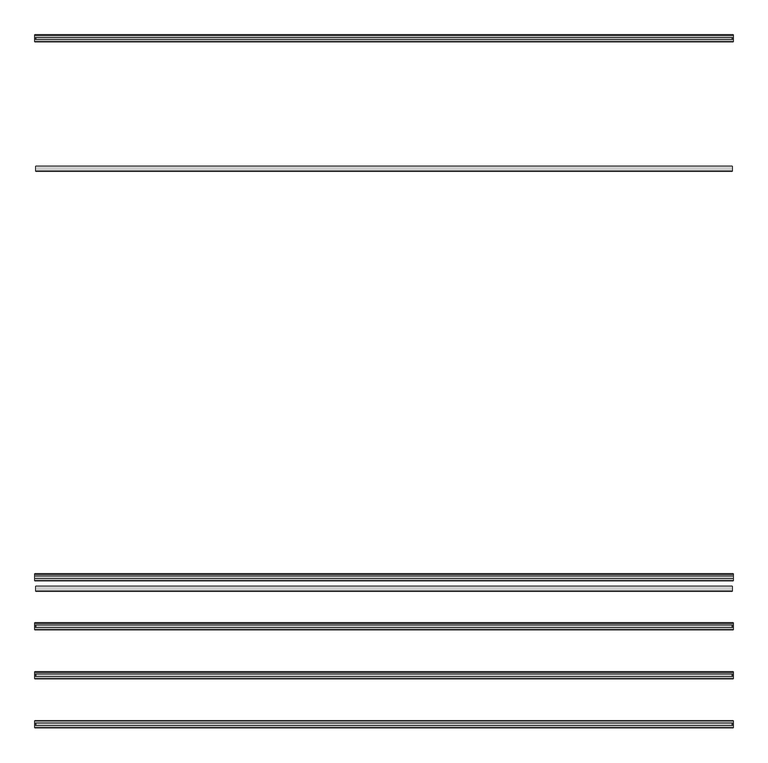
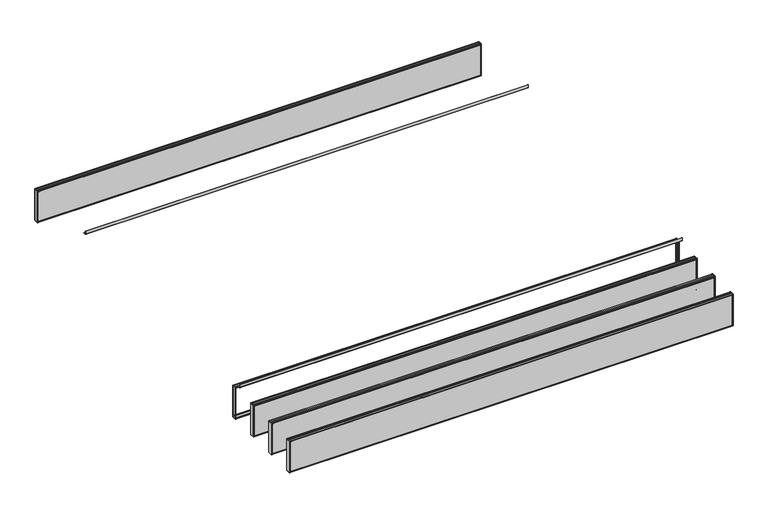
"""IFC4 building model written with IfcOpenShell, lengths in millimetres: proxy geometry, durlum_POLYLAM : durlum_POLYLAM 40 RV-L6."""

from ifc_helpers import new_model, si_unit, point, frame, frame_2d, origin, place, context, project, spatial, polyline, circle_curve, trimmed, segment, composite_curve, outline, extrude, source, transform, mapped, element, save
from ifc_brep_helpers import plane_surface, cylinder_surface, advanced_brep


def generic_models_c2da57ca(model_context):
    return source(origin(), model_context, "Body", "SolidModel", [
        advanced_brep(
        [(1995.0, -1102.0, 2016.9), (1995.0, -1112.0, 2016.9), (1995.0, -1112.0, 2015.9), (1995.0, -1101.0, 2015.9), (1995.0, -1101.0, 1717.9), (1995.0, -1139.0, 1717.9), (1995.0, -1139.0, 2015.8155735), (1995.0, -1128.0, 2015.8155735), (1995.0, -1128.0, 2016.9), (1995.0, -1138.0, 2016.9), (1995.0, -1140.0, 2014.9), (1995.0, -1140.0, 1718.9), (1995.0, -1138.0, 1716.9), (1995.0, -1102.0, 1716.9), (1995.0, -1100.0, 1718.9), (1995.0, -1100.0, 2014.9), (-1995.0, -1102.0, 2016.9), (-1995.0, -1100.0, 2014.9), (-1995.0, -1100.0, 1718.9), (-1995.0, -1102.0, 1716.9), (-1995.0, -1138.0, 1716.9), (-1995.0, -1140.0, 1718.9), (-1995.0, -1140.0, 2014.9), (-1995.0, -1138.0, 2016.9), (-1995.0, -1128.0, 2016.9), (-1995.0, -1128.0, 2015.8155735), (-1995.0, -1139.0, 2015.8155735), (-1995.0, -1139.0, 1717.9), (-1995.0, -1101.0, 1717.9), (-1995.0, -1101.0, 2015.9), (-1995.0, -1112.0, 2015.9), (-1995.0, -1112.0, 2016.9), (-1986.5, -1101.0, 2008.4), (1986.5, -1101.0, 2008.4), (1986.5, -1101.0, 1725.4), (-1986.5, -1101.0, 1725.4), (1986.5, -1139.0, 2008.4), (-1986.5, -1139.0, 2008.4), (-1986.5, -1139.0, 1725.4), (1986.5, -1139.0, 1725.4), (-1986.5, -1140.0, 2008.4), (1986.5, -1140.0, 2008.4), (1986.5, -1140.0, 1725.4), (-1986.5, -1140.0, 1725.4), (1986.5, -1100.0, 2008.4), (-1986.5, -1100.0, 2008.4), (-1986.5, -1100.0, 1725.4), (1986.5, -1100.0, 1725.4)],
        [
            (0, 1),
            (1, 2),
            (2, 3),
            (3, 4),
            (4, 5),
            (5, 6),
            (6, 7),
            (7, 8),
            (8, 9),
            (9, 10, circle_curve(frame((1995.0, -1138.0, 2014.9), z_axis=(1.0, 0.0, 0.0), x_axis=(0.0, 1.0, 0.0)), 2.0)),
            (10, 11),
            (11, 12, circle_curve(frame((1995.0, -1138.0, 1718.9), z_axis=(1.0, 0.0, 0.0), x_axis=(0.0, 1.0, 0.0)), 2.0)),
            (12, 13),
            (13, 14, circle_curve(frame((1995.0, -1102.0, 1718.9), z_axis=(1.0, 0.0, 0.0), x_axis=(0.0, 1.0, 0.0)), 2.0)),
            (14, 15),
            (15, 0, circle_curve(frame((1995.0, -1102.0, 2014.9), z_axis=(1.0, 0.0, 0.0), x_axis=(0.0, 1.0, 0.0)), 2.0)),
            (16, 17, circle_curve(frame((-1995.0, -1102.0, 2014.9), z_axis=(-1.0, 0.0, 0.0), x_axis=(0.0, 1.0, 0.0)), 2.0)),
            (17, 18),
            (18, 19, circle_curve(frame((-1995.0, -1102.0, 1718.9), z_axis=(-1.0, 0.0, 0.0), x_axis=(0.0, 1.0, 0.0)), 2.0)),
            (19, 20),
            (20, 21, circle_curve(frame((-1995.0, -1138.0, 1718.9), z_axis=(-1.0, 0.0, 0.0), x_axis=(0.0, 1.0, 0.0)), 2.0)),
            (21, 22),
            (22, 23, circle_curve(frame((-1995.0, -1138.0, 2014.9), z_axis=(-1.0, 0.0, 0.0), x_axis=(0.0, 1.0, 0.0)), 2.0)),
            (23, 24),
            (24, 25),
            (25, 26),
            (26, 27),
            (27, 28),
            (28, 29),
            (29, 30),
            (30, 31),
            (31, 16),
            (0, 16),
            (31, 1),
            (30, 2),
            (29, 3),
            (28, 4),
            (32, 33),
            (33, 34),
            (34, 35),
            (35, 32),
            (27, 5),
            (26, 6),
            (36, 37),
            (37, 38),
            (38, 39),
            (39, 36),
            (25, 7),
            (24, 8),
            (23, 9),
            (10, 22),
            (21, 11),
            (40, 41),
            (41, 42),
            (42, 43),
            (43, 40),
            (12, 20),
            (19, 13),
            (14, 18),
            (17, 15),
            (44, 45),
            (45, 46),
            (46, 47),
            (47, 44),
            (44, 33),
            (32, 45),
            (36, 41),
            (40, 37),
            (35, 46),
            (43, 38),
            (34, 47),
            (42, 39),
        ],
        [
            plane_surface(frame((1995.0, -1112.0, 2016.9), z_axis=(1.0, 0.0, 0.0), x_axis=(0.0, -1.0, 0.0))),
            plane_surface(frame((-1995.0, -1112.0, 2016.9), z_axis=(-1.0, 0.0, 0.0), x_axis=(0.0, 1.0, 0.0))),
            plane_surface(frame((1995.0, -1102.0, 2016.9), z_axis=(0.0, 0.0, 1.0), x_axis=(-1.0, 0.0, 0.0))),
            plane_surface(frame((1995.0, -1112.0, 2016.9), z_axis=(0.0, -1.0, 0.0), x_axis=(-1.0, 0.0, 0.0))),
            plane_surface(frame((1995.0, -1112.0, 2015.9), z_axis=(0.0, 0.0, -1.0), x_axis=(-1.0, 0.0, 0.0))),
            plane_surface(frame((1995.0, -1101.0, 2015.9), z_axis=(0.0, -1.0, 0.0), x_axis=(-1.0, 0.0, 0.0))),
            plane_surface(frame((1995.0, -1101.0, 1717.9), z_axis=(0.0, 0.0, 1.0), x_axis=(-1.0, 0.0, 0.0))),
            plane_surface(frame((1995.0, -1139.0, 1717.9), z_axis=(0.0, 1.0, 0.0), x_axis=(-1.0, 0.0, 0.0))),
            plane_surface(frame((1995.0, -1139.0, 2015.8155735), z_axis=(0.0, 0.0, -1.0), x_axis=(-1.0, 0.0, 0.0))),
            plane_surface(frame((1995.0, -1128.0, 2015.8155735), z_axis=(0.0, 1.0, 0.0), x_axis=(-1.0, 0.0, 0.0))),
            plane_surface(frame((1995.0, -1128.0, 2016.9), z_axis=(0.0, 0.0, 1.0), x_axis=(-1.0, 0.0, 0.0))),
            plane_surface(frame((1995.0, -1140.0, 2014.9), z_axis=(0.0, -1.0, 0.0), x_axis=(-1.0, 0.0, 0.0))),
            plane_surface(frame((1995.0, -1138.0, 1716.9), z_axis=(0.0, 0.0, -1.0), x_axis=(-1.0, 0.0, 0.0))),
            plane_surface(frame((1995.0, -1100.0, 1718.9), z_axis=(0.0, 1.0, 0.0), x_axis=(-1.0, 0.0, 0.0))),
            cylinder_surface(frame((-1995.0, -1138.0, 2014.9), z_axis=(1.0, 0.0, 0.0), x_axis=(0.0, 1.0, 0.0)), 2.0),
            cylinder_surface(frame((-1995.0, -1138.0, 1718.9), z_axis=(1.0, 0.0, 0.0), x_axis=(0.0, 1.0, 0.0)), 2.0),
            cylinder_surface(frame((-1995.0, -1102.0, 1718.9), z_axis=(1.0, 0.0, 0.0), x_axis=(0.0, 1.0, 0.0)), 2.0),
            cylinder_surface(frame((-1995.0, -1102.0, 2014.9), z_axis=(1.0, 0.0, 0.0), x_axis=(0.0, 1.0, 0.0)), 2.0),
            plane_surface(frame((1986.5, -1140.0, 2008.4), z_axis=(0.0, 0.0, -1.0), x_axis=(0.0, 1.0, 0.0))),
            plane_surface(frame((-1986.5, -1140.0, 2008.4), z_axis=(1.0, 0.0, 0.0), x_axis=(0.0, 1.0, 0.0))),
            plane_surface(frame((-1986.5, -1140.0, 1725.4), z_axis=(0.0, 0.0, 1.0), x_axis=(0.0, 1.0, 0.0))),
            plane_surface(frame((1986.5, -1140.0, 1725.4), z_axis=(-1.0, 0.0, 0.0), x_axis=(0.0, 1.0, 0.0))),
        ],
        [
            (0, [[1, 2, 3, 4, 5, 6, 7, 8, 9, 10, 11, 12, 13, 14, 15, 16]]),
            (1, [[17, 18, 19, 20, 21, 22, 23, 24, 25, 26, 27, 28, 29, 30, 31, 32]]),
            (2, [[-1, 33, -32, 34]]),
            (3, [[-2, -34, -31, 35]]),
            (4, [[-3, -35, -30, 36]]),
            (5, [[-4, -36, -29, 37], [38, 39, 40, 41]]),
            (6, [[-5, -37, -28, 42]]),
            (7, [[-6, -42, -27, 43], [44, 45, 46, 47]]),
            (8, [[-7, -43, -26, 48]]),
            (9, [[-8, -48, -25, 49]]),
            (10, [[-9, -49, -24, 50]]),
            (11, [[-11, 51, -22, 52], [53, 54, 55, 56]]),
            (12, [[-13, 57, -20, 58]]),
            (13, [[-15, 59, -18, 60], [61, 62, 63, 64]]),
            (14, [[-10, -50, -23, -51]]),
            (15, [[-12, -52, -21, -57]]),
            (16, [[-14, -58, -19, -59]]),
            (17, [[-16, -60, -17, -33]]),
            (18, [[65, -38, 66, -61]]),
            (18, [[67, -53, 68, -44]]),
            (19, [[-66, -41, 69, -62]]),
            (19, [[-68, -56, 70, -45]]),
            (20, [[-69, -40, 71, -63]]),
            (20, [[-70, -55, 72, -46]]),
            (21, [[-65, -64, -71, -39]]),
            (21, [[-67, -47, -72, -54]]),
        ],
    ),
        extrude(outline(polyline([(1993.0, -1381.0), (1995.0, -1381.0), (1995.0, -1419.0), (1993.0, -1419.0), (1993.0, -1381.0)])), frame((0.0, 0.0, 1717.9), z_axis=(0.0, 0.0, 1.0), x_axis=(1.0, 0.0, 0.0)), (0.0, 0.0, 1.0), 298.0),
        extrude(outline(polyline([(-1995.0, -1381.0), (-1993.0, -1381.0), (-1993.0, -1419.0), (-1995.0, -1419.0), (-1995.0, -1381.0)])), frame((0.0, 0.0, 1717.9), z_axis=(0.0, 0.0, 1.0), x_axis=(1.0, 0.0, 0.0)), (0.0, 0.0, 1.0), 298.0),
        extrude(outline(polyline([(1986.5, -1381.0), (1986.5, -1419.0), (-1986.5, -1419.0), (-1986.5, -1381.0), (1986.5, -1381.0)])), frame((0.0, 0.0, 1717.9), z_axis=(0.0, 0.0, 1.0), x_axis=(1.0, 0.0, 0.0)), (0.0, 0.0, 1.0), 298.0),
        extrude(outline(polyline([(1986.5, -1381.0), (-1986.5, -1381.0), (-1986.5, -1380.0), (1986.5, -1380.0), (1986.5, -1381.0)])), frame((0.0, 0.0, 1725.4), z_axis=(0.0, 0.0, 1.0), x_axis=(1.0, 0.0, 0.0)), (0.0, 0.0, 1.0), 283.0),
        extrude(outline(polyline([(1986.5, -1420.0), (-1986.5, -1420.0), (-1986.5, -1419.0), (1986.5, -1419.0), (1986.5, -1420.0)])), frame((0.0, 0.0, 1725.4), z_axis=(0.0, 0.0, 1.0), x_axis=(1.0, 0.0, 0.0)), (0.0, 0.0, 1.0), 283.0),
        advanced_brep(
        [(1995.0, -1382.0, 2016.9), (1995.0, -1392.0, 2016.9), (1995.0, -1392.0, 2015.9), (1995.0, -1381.0, 2015.9), (1995.0, -1381.0, 1717.9), (1995.0, -1419.0, 1717.9), (1995.0, -1419.0, 2015.8155735), (1995.0, -1408.0, 2015.8155735), (1995.0, -1408.0, 2016.9), (1995.0, -1418.0, 2016.9), (1995.0, -1420.0, 2014.9), (1995.0, -1420.0, 1718.9), (1995.0, -1418.0, 1716.9), (1995.0, -1382.0, 1716.9), (1995.0, -1380.0, 1718.9), (1995.0, -1380.0, 2014.9), (-1995.0, -1382.0, 2016.9), (-1995.0, -1380.0, 2014.9), (-1995.0, -1380.0, 1718.9), (-1995.0, -1382.0, 1716.9), (-1995.0, -1418.0, 1716.9), (-1995.0, -1420.0, 1718.9), (-1995.0, -1420.0, 2014.9), (-1995.0, -1418.0, 2016.9), (-1995.0, -1408.0, 2016.9), (-1995.0, -1408.0, 2015.8155735), (-1995.0, -1419.0, 2015.8155735), (-1995.0, -1419.0, 1717.9), (-1995.0, -1381.0, 1717.9), (-1995.0, -1381.0, 2015.9), (-1995.0, -1392.0, 2015.9), (-1995.0, -1392.0, 2016.9), (-1986.5, -1381.0, 2008.4), (1986.5, -1381.0, 2008.4), (1986.5, -1381.0, 1725.4), (-1986.5, -1381.0, 1725.4), (1986.5, -1419.0, 2008.4), (-1986.5, -1419.0, 2008.4), (-1986.5, -1419.0, 1725.4), (1986.5, -1419.0, 1725.4), (-1986.5, -1420.0, 2008.4), (1986.5, -1420.0, 2008.4), (1986.5, -1420.0, 1725.4), (-1986.5, -1420.0, 1725.4), (1986.5, -1380.0, 2008.4), (-1986.5, -1380.0, 2008.4), (-1986.5, -1380.0, 1725.4), (1986.5, -1380.0, 1725.4)],
        [
            (0, 1),
            (1, 2),
            (2, 3),
            (3, 4),
            (4, 5),
            (5, 6),
            (6, 7),
            (7, 8),
            (8, 9),
            (9, 10, circle_curve(frame((1995.0, -1418.0, 2014.9), z_axis=(1.0, 0.0, 0.0), x_axis=(0.0, 1.0, 0.0)), 2.0)),
            (10, 11),
            (11, 12, circle_curve(frame((1995.0, -1418.0, 1718.9), z_axis=(1.0, 0.0, 0.0), x_axis=(0.0, 1.0, 0.0)), 2.0)),
            (12, 13),
            (13, 14, circle_curve(frame((1995.0, -1382.0, 1718.9), z_axis=(1.0, 0.0, 0.0), x_axis=(0.0, 1.0, 0.0)), 2.0)),
            (14, 15),
            (15, 0, circle_curve(frame((1995.0, -1382.0, 2014.9), z_axis=(1.0, 0.0, 0.0), x_axis=(0.0, 1.0, 0.0)), 2.0)),
            (16, 17, circle_curve(frame((-1995.0, -1382.0, 2014.9), z_axis=(-1.0, 0.0, 0.0), x_axis=(0.0, 1.0, 0.0)), 2.0)),
            (17, 18),
            (18, 19, circle_curve(frame((-1995.0, -1382.0, 1718.9), z_axis=(-1.0, 0.0, 0.0), x_axis=(0.0, 1.0, 0.0)), 2.0)),
            (19, 20),
            (20, 21, circle_curve(frame((-1995.0, -1418.0, 1718.9), z_axis=(-1.0, 0.0, 0.0), x_axis=(0.0, 1.0, 0.0)), 2.0)),
            (21, 22),
            (22, 23, circle_curve(frame((-1995.0, -1418.0, 2014.9), z_axis=(-1.0, 0.0, 0.0), x_axis=(0.0, 1.0, 0.0)), 2.0)),
            (23, 24),
            (24, 25),
            (25, 26),
            (26, 27),
            (27, 28),
            (28, 29),
            (29, 30),
            (30, 31),
            (31, 16),
            (0, 16),
            (31, 1),
            (30, 2),
            (29, 3),
            (28, 4),
            (32, 33),
            (33, 34),
            (34, 35),
            (35, 32),
            (27, 5),
            (26, 6),
            (36, 37),
            (37, 38),
            (38, 39),
            (39, 36),
            (25, 7),
            (24, 8),
            (23, 9),
            (10, 22),
            (21, 11),
            (40, 41),
            (41, 42),
            (42, 43),
            (43, 40),
            (12, 20),
            (19, 13),
            (14, 18),
            (17, 15),
            (44, 45),
            (45, 46),
            (46, 47),
            (47, 44),
            (44, 33),
            (32, 45),
            (36, 41),
            (40, 37),
            (35, 46),
            (43, 38),
            (34, 47),
            (42, 39),
        ],
        [
            plane_surface(frame((1995.0, -1392.0, 2016.9), z_axis=(1.0, 0.0, 0.0), x_axis=(0.0, -1.0, 0.0))),
            plane_surface(frame((-1995.0, -1392.0, 2016.9), z_axis=(-1.0, 0.0, 0.0), x_axis=(0.0, 1.0, 0.0))),
            plane_surface(frame((1995.0, -1382.0, 2016.9), z_axis=(0.0, 0.0, 1.0), x_axis=(-1.0, 0.0, 0.0))),
            plane_surface(frame((1995.0, -1392.0, 2016.9), z_axis=(0.0, -1.0, 0.0), x_axis=(-1.0, 0.0, 0.0))),
            plane_surface(frame((1995.0, -1392.0, 2015.9), z_axis=(0.0, 0.0, -1.0), x_axis=(-1.0, 0.0, 0.0))),
            plane_surface(frame((1995.0, -1381.0, 2015.9), z_axis=(0.0, -1.0, 0.0), x_axis=(-1.0, 0.0, 0.0))),
            plane_surface(frame((1995.0, -1381.0, 1717.9), z_axis=(0.0, 0.0, 1.0), x_axis=(-1.0, 0.0, 0.0))),
            plane_surface(frame((1995.0, -1419.0, 1717.9), z_axis=(0.0, 1.0, 0.0), x_axis=(-1.0, 0.0, 0.0))),
            plane_surface(frame((1995.0, -1419.0, 2015.8155735), z_axis=(0.0, 0.0, -1.0), x_axis=(-1.0, 0.0, 0.0))),
            plane_surface(frame((1995.0, -1408.0, 2015.8155735), z_axis=(0.0, 1.0, 0.0), x_axis=(-1.0, 0.0, 0.0))),
            plane_surface(frame((1995.0, -1408.0, 2016.9), z_axis=(0.0, 0.0, 1.0), x_axis=(-1.0, 0.0, 0.0))),
            plane_surface(frame((1995.0, -1420.0, 2014.9), z_axis=(0.0, -1.0, 0.0), x_axis=(-1.0, 0.0, 0.0))),
            plane_surface(frame((1995.0, -1418.0, 1716.9), z_axis=(0.0, 0.0, -1.0), x_axis=(-1.0, 0.0, 0.0))),
            plane_surface(frame((1995.0, -1380.0, 1718.9), z_axis=(0.0, 1.0, 0.0), x_axis=(-1.0, 0.0, 0.0))),
            cylinder_surface(frame((-1995.0, -1418.0, 2014.9), z_axis=(1.0, 0.0, 0.0), x_axis=(0.0, 1.0, 0.0)), 2.0),
            cylinder_surface(frame((-1995.0, -1418.0, 1718.9), z_axis=(1.0, 0.0, 0.0), x_axis=(0.0, 1.0, 0.0)), 2.0),
            cylinder_surface(frame((-1995.0, -1382.0, 1718.9), z_axis=(1.0, 0.0, 0.0), x_axis=(0.0, 1.0, 0.0)), 2.0),
            cylinder_surface(frame((-1995.0, -1382.0, 2014.9), z_axis=(1.0, 0.0, 0.0), x_axis=(0.0, 1.0, 0.0)), 2.0),
            plane_surface(frame((1986.5, -1420.0, 2008.4), z_axis=(0.0, 0.0, -1.0), x_axis=(0.0, 1.0, 0.0))),
            plane_surface(frame((-1986.5, -1420.0, 2008.4), z_axis=(1.0, 0.0, 0.0), x_axis=(0.0, 1.0, 0.0))),
            plane_surface(frame((-1986.5, -1420.0, 1725.4), z_axis=(0.0, 0.0, 1.0), x_axis=(0.0, 1.0, 0.0))),
            plane_surface(frame((1986.5, -1420.0, 1725.4), z_axis=(-1.0, 0.0, 0.0), x_axis=(0.0, 1.0, 0.0))),
        ],
        [
            (0, [[1, 2, 3, 4, 5, 6, 7, 8, 9, 10, 11, 12, 13, 14, 15, 16]]),
            (1, [[17, 18, 19, 20, 21, 22, 23, 24, 25, 26, 27, 28, 29, 30, 31, 32]]),
            (2, [[-1, 33, -32, 34]]),
            (3, [[-2, -34, -31, 35]]),
            (4, [[-3, -35, -30, 36]]),
            (5, [[-4, -36, -29, 37], [38, 39, 40, 41]]),
            (6, [[-5, -37, -28, 42]]),
            (7, [[-6, -42, -27, 43], [44, 45, 46, 47]]),
            (8, [[-7, -43, -26, 48]]),
            (9, [[-8, -48, -25, 49]]),
            (10, [[-9, -49, -24, 50]]),
            (11, [[-11, 51, -22, 52], [53, 54, 55, 56]]),
            (12, [[-13, 57, -20, 58]]),
            (13, [[-15, 59, -18, 60], [61, 62, 63, 64]]),
            (14, [[-10, -50, -23, -51]]),
            (15, [[-12, -52, -21, -57]]),
            (16, [[-14, -58, -19, -59]]),
            (17, [[-16, -60, -17, -33]]),
            (18, [[65, -38, 66, -61]]),
            (18, [[67, -53, 68, -44]]),
            (19, [[-66, -41, 69, -62]]),
            (19, [[-68, -56, 70, -45]]),
            (20, [[-69, -40, 71, -63]]),
            (20, [[-70, -55, 72, -46]]),
            (21, [[-65, -64, -71, -39]]),
            (21, [[-67, -47, -72, -54]]),
        ],
    ),
        extrude(outline(polyline([(1993.0, -1661.0), (1995.0, -1661.0), (1995.0, -1699.0), (1993.0, -1699.0), (1993.0, -1661.0)])), frame((0.0, 0.0, 1717.9), z_axis=(0.0, 0.0, 1.0), x_axis=(1.0, 0.0, 0.0)), (0.0, 0.0, 1.0), 298.0),
        extrude(outline(polyline([(-1995.0, -1661.0), (-1993.0, -1661.0), (-1993.0, -1699.0), (-1995.0, -1699.0), (-1995.0, -1661.0)])), frame((0.0, 0.0, 1717.9), z_axis=(0.0, 0.0, 1.0), x_axis=(1.0, 0.0, 0.0)), (0.0, 0.0, 1.0), 298.0),
        extrude(outline(polyline([(1986.5, -1661.0), (1986.5, -1699.0), (-1986.5, -1699.0), (-1986.5, -1661.0), (1986.5, -1661.0)])), frame((0.0, 0.0, 1717.9), z_axis=(0.0, 0.0, 1.0), x_axis=(1.0, 0.0, 0.0)), (0.0, 0.0, 1.0), 298.0),
        extrude(outline(polyline([(1986.5, -1661.0), (-1986.5, -1661.0), (-1986.5, -1660.0), (1986.5, -1660.0), (1986.5, -1661.0)])), frame((0.0, 0.0, 1725.4), z_axis=(0.0, 0.0, 1.0), x_axis=(1.0, 0.0, 0.0)), (0.0, 0.0, 1.0), 283.0),
        extrude(outline(polyline([(1986.5, -1700.0), (-1986.5, -1700.0), (-1986.5, -1699.0), (1986.5, -1699.0), (1986.5, -1700.0)])), frame((0.0, 0.0, 1725.4), z_axis=(0.0, 0.0, 1.0), x_axis=(1.0, 0.0, 0.0)), (0.0, 0.0, 1.0), 283.0),
        advanced_brep(
        [(1995.0, -1662.0, 2016.9), (1995.0, -1672.0, 2016.9), (1995.0, -1672.0, 2015.9), (1995.0, -1661.0, 2015.9), (1995.0, -1661.0, 1717.9), (1995.0, -1699.0, 1717.9), (1995.0, -1699.0, 2015.8155735), (1995.0, -1688.0, 2015.8155735), (1995.0, -1688.0, 2016.9), (1995.0, -1698.0, 2016.9), (1995.0, -1700.0, 2014.9), (1995.0, -1700.0, 1718.9), (1995.0, -1698.0, 1716.9), (1995.0, -1662.0, 1716.9), (1995.0, -1660.0, 1718.9), (1995.0, -1660.0, 2014.9), (-1995.0, -1662.0, 2016.9), (-1995.0, -1660.0, 2014.9), (-1995.0, -1660.0, 1718.9), (-1995.0, -1662.0, 1716.9), (-1995.0, -1698.0, 1716.9), (-1995.0, -1700.0, 1718.9), (-1995.0, -1700.0, 2014.9), (-1995.0, -1698.0, 2016.9), (-1995.0, -1688.0, 2016.9), (-1995.0, -1688.0, 2015.8155735), (-1995.0, -1699.0, 2015.8155735), (-1995.0, -1699.0, 1717.9), (-1995.0, -1661.0, 1717.9), (-1995.0, -1661.0, 2015.9), (-1995.0, -1672.0, 2015.9), (-1995.0, -1672.0, 2016.9), (-1986.5, -1661.0, 2008.4), (1986.5, -1661.0, 2008.4), (1986.5, -1661.0, 1725.4), (-1986.5, -1661.0, 1725.4), (1986.5, -1699.0, 2008.4), (-1986.5, -1699.0, 2008.4), (-1986.5, -1699.0, 1725.4), (1986.5, -1699.0, 1725.4), (-1986.5, -1700.0, 2008.4), (1986.5, -1700.0, 2008.4), (1986.5, -1700.0, 1725.4), (-1986.5, -1700.0, 1725.4), (1986.5, -1660.0, 2008.4), (-1986.5, -1660.0, 2008.4), (-1986.5, -1660.0, 1725.4), (1986.5, -1660.0, 1725.4)],
        [
            (0, 1),
            (1, 2),
            (2, 3),
            (3, 4),
            (4, 5),
            (5, 6),
            (6, 7),
            (7, 8),
            (8, 9),
            (9, 10, circle_curve(frame((1995.0, -1698.0, 2014.9), z_axis=(1.0, 0.0, 0.0), x_axis=(0.0, 1.0, 0.0)), 2.0)),
            (10, 11),
            (11, 12, circle_curve(frame((1995.0, -1698.0, 1718.9), z_axis=(1.0, 0.0, 0.0), x_axis=(0.0, 1.0, 0.0)), 2.0)),
            (12, 13),
            (13, 14, circle_curve(frame((1995.0, -1662.0, 1718.9), z_axis=(1.0, 0.0, 0.0), x_axis=(0.0, 1.0, 0.0)), 2.0)),
            (14, 15),
            (15, 0, circle_curve(frame((1995.0, -1662.0, 2014.9), z_axis=(1.0, 0.0, 0.0), x_axis=(0.0, 1.0, 0.0)), 2.0)),
            (16, 17, circle_curve(frame((-1995.0, -1662.0, 2014.9), z_axis=(-1.0, 0.0, 0.0), x_axis=(0.0, 1.0, 0.0)), 2.0)),
            (17, 18),
            (18, 19, circle_curve(frame((-1995.0, -1662.0, 1718.9), z_axis=(-1.0, 0.0, 0.0), x_axis=(0.0, 1.0, 0.0)), 2.0)),
            (19, 20),
            (20, 21, circle_curve(frame((-1995.0, -1698.0, 1718.9), z_axis=(-1.0, 0.0, 0.0), x_axis=(0.0, 1.0, 0.0)), 2.0)),
            (21, 22),
            (22, 23, circle_curve(frame((-1995.0, -1698.0, 2014.9), z_axis=(-1.0, 0.0, 0.0), x_axis=(0.0, 1.0, 0.0)), 2.0)),
            (23, 24),
            (24, 25),
            (25, 26),
            (26, 27),
            (27, 28),
            (28, 29),
            (29, 30),
            (30, 31),
            (31, 16),
            (0, 16),
            (31, 1),
            (30, 2),
            (29, 3),
            (28, 4),
            (32, 33),
            (33, 34),
            (34, 35),
            (35, 32),
            (27, 5),
            (26, 6),
            (36, 37),
            (37, 38),
            (38, 39),
            (39, 36),
            (25, 7),
            (24, 8),
            (23, 9),
            (10, 22),
            (21, 11),
            (40, 41),
            (41, 42),
            (42, 43),
            (43, 40),
            (12, 20),
            (19, 13),
            (14, 18),
            (17, 15),
            (44, 45),
            (45, 46),
            (46, 47),
            (47, 44),
            (44, 33),
            (32, 45),
            (36, 41),
            (40, 37),
            (35, 46),
            (43, 38),
            (34, 47),
            (42, 39),
        ],
        [
            plane_surface(frame((1995.0, -1672.0, 2016.9), z_axis=(1.0, 0.0, 0.0), x_axis=(0.0, -1.0, 0.0))),
            plane_surface(frame((-1995.0, -1672.0, 2016.9), z_axis=(-1.0, 0.0, 0.0), x_axis=(0.0, 1.0, 0.0))),
            plane_surface(frame((1995.0, -1662.0, 2016.9), z_axis=(0.0, 0.0, 1.0), x_axis=(-1.0, 0.0, 0.0))),
            plane_surface(frame((1995.0, -1672.0, 2016.9), z_axis=(0.0, -1.0, 0.0), x_axis=(-1.0, 0.0, 0.0))),
            plane_surface(frame((1995.0, -1672.0, 2015.9), z_axis=(0.0, 0.0, -1.0), x_axis=(-1.0, 0.0, 0.0))),
            plane_surface(frame((1995.0, -1661.0, 2015.9), z_axis=(0.0, -1.0, 0.0), x_axis=(-1.0, 0.0, 0.0))),
            plane_surface(frame((1995.0, -1661.0, 1717.9), z_axis=(0.0, 0.0, 1.0), x_axis=(-1.0, 0.0, 0.0))),
            plane_surface(frame((1995.0, -1699.0, 1717.9), z_axis=(0.0, 1.0, 0.0), x_axis=(-1.0, 0.0, 0.0))),
            plane_surface(frame((1995.0, -1699.0, 2015.8155735), z_axis=(0.0, 0.0, -1.0), x_axis=(-1.0, 0.0, 0.0))),
            plane_surface(frame((1995.0, -1688.0, 2015.8155735), z_axis=(0.0, 1.0, 0.0), x_axis=(-1.0, 0.0, 0.0))),
            plane_surface(frame((1995.0, -1688.0, 2016.9), z_axis=(0.0, 0.0, 1.0), x_axis=(-1.0, 0.0, 0.0))),
            plane_surface(frame((1995.0, -1700.0, 2014.9), z_axis=(0.0, -1.0, 0.0), x_axis=(-1.0, 0.0, 0.0))),
            plane_surface(frame((1995.0, -1698.0, 1716.9), z_axis=(0.0, 0.0, -1.0), x_axis=(-1.0, 0.0, 0.0))),
            plane_surface(frame((1995.0, -1660.0, 1718.9), z_axis=(0.0, 1.0, 0.0), x_axis=(-1.0, 0.0, 0.0))),
            cylinder_surface(frame((-1995.0, -1698.0, 2014.9), z_axis=(1.0, 0.0, 0.0), x_axis=(0.0, 1.0, 0.0)), 2.0),
            cylinder_surface(frame((-1995.0, -1698.0, 1718.9), z_axis=(1.0, 0.0, 0.0), x_axis=(0.0, 1.0, 0.0)), 2.0),
            cylinder_surface(frame((-1995.0, -1662.0, 1718.9), z_axis=(1.0, 0.0, 0.0), x_axis=(0.0, 1.0, 0.0)), 2.0),
            cylinder_surface(frame((-1995.0, -1662.0, 2014.9), z_axis=(1.0, 0.0, 0.0), x_axis=(0.0, 1.0, 0.0)), 2.0),
            plane_surface(frame((1986.5, -1700.0, 2008.4), z_axis=(0.0, 0.0, -1.0), x_axis=(0.0, 1.0, 0.0))),
            plane_surface(frame((-1986.5, -1700.0, 2008.4), z_axis=(1.0, 0.0, 0.0), x_axis=(0.0, 1.0, 0.0))),
            plane_surface(frame((-1986.5, -1700.0, 1725.4), z_axis=(0.0, 0.0, 1.0), x_axis=(0.0, 1.0, 0.0))),
            plane_surface(frame((1986.5, -1700.0, 1725.4), z_axis=(-1.0, 0.0, 0.0), x_axis=(0.0, 1.0, 0.0))),
        ],
        [
            (0, [[1, 2, 3, 4, 5, 6, 7, 8, 9, 10, 11, 12, 13, 14, 15, 16]]),
            (1, [[17, 18, 19, 20, 21, 22, 23, 24, 25, 26, 27, 28, 29, 30, 31, 32]]),
            (2, [[-1, 33, -32, 34]]),
            (3, [[-2, -34, -31, 35]]),
            (4, [[-3, -35, -30, 36]]),
            (5, [[-4, -36, -29, 37], [38, 39, 40, 41]]),
            (6, [[-5, -37, -28, 42]]),
            (7, [[-6, -42, -27, 43], [44, 45, 46, 47]]),
            (8, [[-7, -43, -26, 48]]),
            (9, [[-8, -48, -25, 49]]),
            (10, [[-9, -49, -24, 50]]),
            (11, [[-11, 51, -22, 52], [53, 54, 55, 56]]),
            (12, [[-13, 57, -20, 58]]),
            (13, [[-15, 59, -18, 60], [61, 62, 63, 64]]),
            (14, [[-10, -50, -23, -51]]),
            (15, [[-12, -52, -21, -57]]),
            (16, [[-14, -58, -19, -59]]),
            (17, [[-16, -60, -17, -33]]),
            (18, [[65, -38, 66, -61]]),
            (18, [[67, -53, 68, -44]]),
            (19, [[-66, -41, 69, -62]]),
            (19, [[-68, -56, 70, -45]]),
            (20, [[-69, -40, 71, -63]]),
            (20, [[-70, -55, 72, -46]]),
            (21, [[-65, -64, -71, -39]]),
            (21, [[-67, -47, -72, -54]]),
        ],
    ),
        extrude(outline(polyline([(1993.0, 1979.0), (1995.0, 1979.0), (1995.0, 1941.0), (1993.0, 1941.0), (1993.0, 1979.0)])), frame((0.0, 0.0, 1717.9), z_axis=(0.0, 0.0, 1.0), x_axis=(1.0, 0.0, 0.0)), (0.0, 0.0, 1.0), 298.0),
        extrude(outline(polyline([(-1995.0, 1979.0), (-1993.0, 1979.0), (-1993.0, 1941.0), (-1995.0, 1941.0), (-1995.0, 1979.0)])), frame((0.0, 0.0, 1717.9), z_axis=(0.0, 0.0, 1.0), x_axis=(1.0, 0.0, 0.0)), (0.0, 0.0, 1.0), 298.0),
        extrude(outline(polyline([(1986.5, 1979.0), (1986.5, 1941.0), (-1986.5, 1941.0), (-1986.5, 1979.0), (1986.5, 1979.0)])), frame((0.0, 0.0, 1717.9), z_axis=(0.0, 0.0, 1.0), x_axis=(1.0, 0.0, 0.0)), (0.0, 0.0, 1.0), 298.0),
        extrude(outline(polyline([(1986.5, 1979.0), (-1986.5, 1979.0), (-1986.5, 1980.0), (1986.5, 1980.0), (1986.5, 1979.0)])), frame((0.0, 0.0, 1725.4), z_axis=(0.0, 0.0, 1.0), x_axis=(1.0, 0.0, 0.0)), (0.0, 0.0, 1.0), 283.0),
        extrude(outline(polyline([(1986.5, 1940.0), (-1986.5, 1940.0), (-1986.5, 1941.0), (1986.5, 1941.0), (1986.5, 1940.0)])), frame((0.0, 0.0, 1725.4), z_axis=(0.0, 0.0, 1.0), x_axis=(1.0, 0.0, 0.0)), (0.0, 0.0, 1.0), 283.0),
        advanced_brep(
        [(1995.0, 1978.0, 2016.9), (1995.0, 1968.0, 2016.9), (1995.0, 1968.0, 2015.9), (1995.0, 1979.0, 2015.9), (1995.0, 1979.0, 1717.9), (1995.0, 1941.0, 1717.9), (1995.0, 1941.0, 2015.8155735), (1995.0, 1952.0, 2015.8155735), (1995.0, 1952.0, 2016.9), (1995.0, 1942.0, 2016.9), (1995.0, 1940.0, 2014.9), (1995.0, 1940.0, 1718.9), (1995.0, 1942.0, 1716.9), (1995.0, 1978.0, 1716.9), (1995.0, 1980.0, 1718.9), (1995.0, 1980.0, 2014.9), (-1995.0, 1978.0, 2016.9), (-1995.0, 1980.0, 2014.9), (-1995.0, 1980.0, 1718.9), (-1995.0, 1978.0, 1716.9), (-1995.0, 1942.0, 1716.9), (-1995.0, 1940.0, 1718.9), (-1995.0, 1940.0, 2014.9), (-1995.0, 1942.0, 2016.9), (-1995.0, 1952.0, 2016.9), (-1995.0, 1952.0, 2015.8155735), (-1995.0, 1941.0, 2015.8155735), (-1995.0, 1941.0, 1717.9), (-1995.0, 1979.0, 1717.9), (-1995.0, 1979.0, 2015.9), (-1995.0, 1968.0, 2015.9), (-1995.0, 1968.0, 2016.9), (-1986.5, 1979.0, 2008.4), (1986.5, 1979.0, 2008.4), (1986.5, 1979.0, 1725.4), (-1986.5, 1979.0, 1725.4), (1986.5, 1941.0, 2008.4), (-1986.5, 1941.0, 2008.4), (-1986.5, 1941.0, 1725.4), (1986.5, 1941.0, 1725.4), (-1986.5, 1940.0, 2008.4), (1986.5, 1940.0, 2008.4), (1986.5, 1940.0, 1725.4), (-1986.5, 1940.0, 1725.4), (1986.5, 1980.0, 2008.4), (-1986.5, 1980.0, 2008.4), (-1986.5, 1980.0, 1725.4), (1986.5, 1980.0, 1725.4)],
        [
            (0, 1),
            (1, 2),
            (2, 3),
            (3, 4),
            (4, 5),
            (5, 6),
            (6, 7),
            (7, 8),
            (8, 9),
            (9, 10, circle_curve(frame((1995.0, 1942.0, 2014.9), z_axis=(1.0, 0.0, 0.0), x_axis=(0.0, 1.0, 0.0)), 2.0)),
            (10, 11),
            (11, 12, circle_curve(frame((1995.0, 1942.0, 1718.9), z_axis=(1.0, 0.0, 0.0), x_axis=(0.0, 1.0, 0.0)), 2.0)),
            (12, 13),
            (13, 14, circle_curve(frame((1995.0, 1978.0, 1718.9), z_axis=(1.0, 0.0, 0.0), x_axis=(0.0, 1.0, 0.0)), 2.0)),
            (14, 15),
            (15, 0, circle_curve(frame((1995.0, 1978.0, 2014.9), z_axis=(1.0, 0.0, 0.0), x_axis=(0.0, 1.0, 0.0)), 2.0)),
            (16, 17, circle_curve(frame((-1995.0, 1978.0, 2014.9), z_axis=(-1.0, 0.0, 0.0), x_axis=(0.0, 1.0, 0.0)), 2.0)),
            (17, 18),
            (18, 19, circle_curve(frame((-1995.0, 1978.0, 1718.9), z_axis=(-1.0, 0.0, 0.0), x_axis=(0.0, 1.0, 0.0)), 2.0)),
            (19, 20),
            (20, 21, circle_curve(frame((-1995.0, 1942.0, 1718.9), z_axis=(-1.0, 0.0, 0.0), x_axis=(0.0, 1.0, 0.0)), 2.0)),
            (21, 22),
            (22, 23, circle_curve(frame((-1995.0, 1942.0, 2014.9), z_axis=(-1.0, 0.0, 0.0), x_axis=(0.0, 1.0, 0.0)), 2.0)),
            (23, 24),
            (24, 25),
            (25, 26),
            (26, 27),
            (27, 28),
            (28, 29),
            (29, 30),
            (30, 31),
            (31, 16),
            (0, 16),
            (31, 1),
            (30, 2),
            (29, 3),
            (28, 4),
            (32, 33),
            (33, 34),
            (34, 35),
            (35, 32),
            (27, 5),
            (26, 6),
            (36, 37),
            (37, 38),
            (38, 39),
            (39, 36),
            (25, 7),
            (24, 8),
            (23, 9),
            (10, 22),
            (21, 11),
            (40, 41),
            (41, 42),
            (42, 43),
            (43, 40),
            (12, 20),
            (19, 13),
            (14, 18),
            (17, 15),
            (44, 45),
            (45, 46),
            (46, 47),
            (47, 44),
            (44, 33),
            (32, 45),
            (36, 41),
            (40, 37),
            (35, 46),
            (43, 38),
            (34, 47),
            (42, 39),
        ],
        [
            plane_surface(frame((1995.0, 1968.0, 2016.9), z_axis=(1.0, 0.0, 0.0), x_axis=(0.0, -1.0, 0.0))),
            plane_surface(frame((-1995.0, 1968.0, 2016.9), z_axis=(-1.0, 0.0, 0.0), x_axis=(0.0, 1.0, 0.0))),
            plane_surface(frame((1995.0, 1978.0, 2016.9), z_axis=(0.0, 0.0, 1.0), x_axis=(-1.0, 0.0, 0.0))),
            plane_surface(frame((1995.0, 1968.0, 2016.9), z_axis=(0.0, -1.0, 0.0), x_axis=(-1.0, 0.0, 0.0))),
            plane_surface(frame((1995.0, 1968.0, 2015.9), z_axis=(0.0, 0.0, -1.0), x_axis=(-1.0, 0.0, 0.0))),
            plane_surface(frame((1995.0, 1979.0, 2015.9), z_axis=(0.0, -1.0, 0.0), x_axis=(-1.0, 0.0, 0.0))),
            plane_surface(frame((1995.0, 1979.0, 1717.9), z_axis=(0.0, 0.0, 1.0), x_axis=(-1.0, 0.0, 0.0))),
            plane_surface(frame((1995.0, 1941.0, 1717.9), z_axis=(0.0, 1.0, 0.0), x_axis=(-1.0, 0.0, 0.0))),
            plane_surface(frame((1995.0, 1941.0, 2015.8155735), z_axis=(0.0, 0.0, -1.0), x_axis=(-1.0, 0.0, 0.0))),
            plane_surface(frame((1995.0, 1952.0, 2015.8155735), z_axis=(0.0, 1.0, 0.0), x_axis=(-1.0, 0.0, 0.0))),
            plane_surface(frame((1995.0, 1952.0, 2016.9), z_axis=(0.0, 0.0, 1.0), x_axis=(-1.0, 0.0, 0.0))),
            plane_surface(frame((1995.0, 1940.0, 2014.9), z_axis=(0.0, -1.0, 0.0), x_axis=(-1.0, 0.0, 0.0))),
            plane_surface(frame((1995.0, 1942.0, 1716.9), z_axis=(0.0, 0.0, -1.0), x_axis=(-1.0, 0.0, 0.0))),
            plane_surface(frame((1995.0, 1980.0, 1718.9), z_axis=(0.0, 1.0, 0.0), x_axis=(-1.0, 0.0, 0.0))),
            cylinder_surface(frame((-1995.0, 1942.0, 2014.9), z_axis=(1.0, 0.0, 0.0), x_axis=(0.0, 1.0, 0.0)), 2.0),
            cylinder_surface(frame((-1995.0, 1942.0, 1718.9), z_axis=(1.0, 0.0, 0.0), x_axis=(0.0, 1.0, 0.0)), 2.0),
            cylinder_surface(frame((-1995.0, 1978.0, 1718.9), z_axis=(1.0, 0.0, 0.0), x_axis=(0.0, 1.0, 0.0)), 2.0),
            cylinder_surface(frame((-1995.0, 1978.0, 2014.9), z_axis=(1.0, 0.0, 0.0), x_axis=(0.0, 1.0, 0.0)), 2.0),
            plane_surface(frame((1986.5, 1940.0, 2008.4), z_axis=(0.0, 0.0, -1.0), x_axis=(0.0, 1.0, 0.0))),
            plane_surface(frame((-1986.5, 1940.0, 2008.4), z_axis=(1.0, 0.0, 0.0), x_axis=(0.0, 1.0, 0.0))),
            plane_surface(frame((-1986.5, 1940.0, 1725.4), z_axis=(0.0, 0.0, 1.0), x_axis=(0.0, 1.0, 0.0))),
            plane_surface(frame((1986.5, 1940.0, 1725.4), z_axis=(-1.0, 0.0, 0.0), x_axis=(0.0, 1.0, 0.0))),
        ],
        [
            (0, [[1, 2, 3, 4, 5, 6, 7, 8, 9, 10, 11, 12, 13, 14, 15, 16]]),
            (1, [[17, 18, 19, 20, 21, 22, 23, 24, 25, 26, 27, 28, 29, 30, 31, 32]]),
            (2, [[-1, 33, -32, 34]]),
            (3, [[-2, -34, -31, 35]]),
            (4, [[-3, -35, -30, 36]]),
            (5, [[-4, -36, -29, 37], [38, 39, 40, 41]]),
            (6, [[-5, -37, -28, 42]]),
            (7, [[-6, -42, -27, 43], [44, 45, 46, 47]]),
            (8, [[-7, -43, -26, 48]]),
            (9, [[-8, -48, -25, 49]]),
            (10, [[-9, -49, -24, 50]]),
            (11, [[-11, 51, -22, 52], [53, 54, 55, 56]]),
            (12, [[-13, 57, -20, 58]]),
            (13, [[-15, 59, -18, 60], [61, 62, 63, 64]]),
            (14, [[-10, -50, -23, -51]]),
            (15, [[-12, -52, -21, -57]]),
            (16, [[-14, -58, -19, -59]]),
            (17, [[-16, -60, -17, -33]]),
            (18, [[65, -38, 66, -61]]),
            (18, [[67, -53, 68, -44]]),
            (19, [[-66, -41, 69, -62]]),
            (19, [[-68, -56, 70, -45]]),
            (20, [[-69, -40, 71, -63]]),
            (20, [[-70, -55, 72, -46]]),
            (21, [[-65, -64, -71, -39]]),
            (21, [[-67, -47, -72, -54]]),
        ],
    ),
        extrude(outline(polyline([(1993.0, -1941.0), (1995.0, -1941.0), (1995.0, -1979.0), (1993.0, -1979.0), (1993.0, -1941.0)])), frame((0.0, 0.0, 1717.9), z_axis=(0.0, 0.0, 1.0), x_axis=(1.0, 0.0, 0.0)), (0.0, 0.0, 1.0), 298.0),
        extrude(outline(polyline([(-1995.0, -1941.0), (-1993.0, -1941.0), (-1993.0, -1979.0), (-1995.0, -1979.0), (-1995.0, -1941.0)])), frame((0.0, 0.0, 1717.9), z_axis=(0.0, 0.0, 1.0), x_axis=(1.0, 0.0, 0.0)), (0.0, 0.0, 1.0), 298.0),
        extrude(outline(polyline([(1986.5, -1941.0), (1986.5, -1979.0), (-1986.5, -1979.0), (-1986.5, -1941.0), (1986.5, -1941.0)])), frame((0.0, 0.0, 1717.9), z_axis=(0.0, 0.0, 1.0), x_axis=(1.0, 0.0, 0.0)), (0.0, 0.0, 1.0), 298.0),
        extrude(outline(polyline([(1986.5, -1941.0), (-1986.5, -1941.0), (-1986.5, -1940.0), (1986.5, -1940.0), (1986.5, -1941.0)])), frame((0.0, 0.0, 1725.4), z_axis=(0.0, 0.0, 1.0), x_axis=(1.0, 0.0, 0.0)), (0.0, 0.0, 1.0), 283.0),
        extrude(outline(polyline([(1986.5, -1980.0), (-1986.5, -1980.0), (-1986.5, -1979.0), (1986.5, -1979.0), (1986.5, -1980.0)])), frame((0.0, 0.0, 1725.4), z_axis=(0.0, 0.0, 1.0), x_axis=(1.0, 0.0, 0.0)), (0.0, 0.0, 1.0), 283.0),
        advanced_brep(
        [(1995.0, -1942.0, 2016.9), (1995.0, -1952.0, 2016.9), (1995.0, -1952.0, 2015.9), (1995.0, -1941.0, 2015.9), (1995.0, -1941.0, 1717.9), (1995.0, -1979.0, 1717.9), (1995.0, -1979.0, 2015.8155735), (1995.0, -1968.0, 2015.8155735), (1995.0, -1968.0, 2016.9), (1995.0, -1978.0, 2016.9), (1995.0, -1980.0, 2014.9), (1995.0, -1980.0, 1718.9), (1995.0, -1978.0, 1716.9), (1995.0, -1942.0, 1716.9), (1995.0, -1940.0, 1718.9), (1995.0, -1940.0, 2014.9), (-1995.0, -1942.0, 2016.9), (-1995.0, -1940.0, 2014.9), (-1995.0, -1940.0, 1718.9), (-1995.0, -1942.0, 1716.9), (-1995.0, -1978.0, 1716.9), (-1995.0, -1980.0, 1718.9), (-1995.0, -1980.0, 2014.9), (-1995.0, -1978.0, 2016.9), (-1995.0, -1968.0, 2016.9), (-1995.0, -1968.0, 2015.8155735), (-1995.0, -1979.0, 2015.8155735), (-1995.0, -1979.0, 1717.9), (-1995.0, -1941.0, 1717.9), (-1995.0, -1941.0, 2015.9), (-1995.0, -1952.0, 2015.9), (-1995.0, -1952.0, 2016.9), (-1986.5, -1941.0, 2008.4), (1986.5, -1941.0, 2008.4), (1986.5, -1941.0, 1725.4), (-1986.5, -1941.0, 1725.4), (1986.5, -1979.0, 2008.4), (-1986.5, -1979.0, 2008.4), (-1986.5, -1979.0, 1725.4), (1986.5, -1979.0, 1725.4), (-1986.5, -1980.0, 2008.4), (1986.5, -1980.0, 2008.4), (1986.5, -1980.0, 1725.4), (-1986.5, -1980.0, 1725.4), (1986.5, -1940.0, 2008.4), (-1986.5, -1940.0, 2008.4), (-1986.5, -1940.0, 1725.4), (1986.5, -1940.0, 1725.4)],
        [
            (0, 1),
            (1, 2),
            (2, 3),
            (3, 4),
            (4, 5),
            (5, 6),
            (6, 7),
            (7, 8),
            (8, 9),
            (9, 10, circle_curve(frame((1995.0, -1978.0, 2014.9), z_axis=(1.0, 0.0, 0.0), x_axis=(0.0, 1.0, 0.0)), 2.0)),
            (10, 11),
            (11, 12, circle_curve(frame((1995.0, -1978.0, 1718.9), z_axis=(1.0, 0.0, 0.0), x_axis=(0.0, 1.0, 0.0)), 2.0)),
            (12, 13),
            (13, 14, circle_curve(frame((1995.0, -1942.0, 1718.9), z_axis=(1.0, 0.0, 0.0), x_axis=(0.0, 1.0, 0.0)), 2.0)),
            (14, 15),
            (15, 0, circle_curve(frame((1995.0, -1942.0, 2014.9), z_axis=(1.0, 0.0, 0.0), x_axis=(0.0, 1.0, 0.0)), 2.0)),
            (16, 17, circle_curve(frame((-1995.0, -1942.0, 2014.9), z_axis=(-1.0, 0.0, 0.0), x_axis=(0.0, 1.0, 0.0)), 2.0)),
            (17, 18),
            (18, 19, circle_curve(frame((-1995.0, -1942.0, 1718.9), z_axis=(-1.0, 0.0, 0.0), x_axis=(0.0, 1.0, 0.0)), 2.0)),
            (19, 20),
            (20, 21, circle_curve(frame((-1995.0, -1978.0, 1718.9), z_axis=(-1.0, 0.0, 0.0), x_axis=(0.0, 1.0, 0.0)), 2.0)),
            (21, 22),
            (22, 23, circle_curve(frame((-1995.0, -1978.0, 2014.9), z_axis=(-1.0, 0.0, 0.0), x_axis=(0.0, 1.0, 0.0)), 2.0)),
            (23, 24),
            (24, 25),
            (25, 26),
            (26, 27),
            (27, 28),
            (28, 29),
            (29, 30),
            (30, 31),
            (31, 16),
            (0, 16),
            (31, 1),
            (30, 2),
            (29, 3),
            (28, 4),
            (32, 33),
            (33, 34),
            (34, 35),
            (35, 32),
            (27, 5),
            (26, 6),
            (36, 37),
            (37, 38),
            (38, 39),
            (39, 36),
            (25, 7),
            (24, 8),
            (23, 9),
            (10, 22),
            (21, 11),
            (40, 41),
            (41, 42),
            (42, 43),
            (43, 40),
            (12, 20),
            (19, 13),
            (14, 18),
            (17, 15),
            (44, 45),
            (45, 46),
            (46, 47),
            (47, 44),
            (44, 33),
            (32, 45),
            (36, 41),
            (40, 37),
            (35, 46),
            (43, 38),
            (34, 47),
            (42, 39),
        ],
        [
            plane_surface(frame((1995.0, -1952.0, 2016.9), z_axis=(1.0, 0.0, 0.0), x_axis=(0.0, -1.0, 0.0))),
            plane_surface(frame((-1995.0, -1952.0, 2016.9), z_axis=(-1.0, 0.0, 0.0), x_axis=(0.0, 1.0, 0.0))),
            plane_surface(frame((1995.0, -1942.0, 2016.9), z_axis=(0.0, 0.0, 1.0), x_axis=(-1.0, 0.0, 0.0))),
            plane_surface(frame((1995.0, -1952.0, 2016.9), z_axis=(0.0, -1.0, 0.0), x_axis=(-1.0, 0.0, 0.0))),
            plane_surface(frame((1995.0, -1952.0, 2015.9), z_axis=(0.0, 0.0, -1.0), x_axis=(-1.0, 0.0, 0.0))),
            plane_surface(frame((1995.0, -1941.0, 2015.9), z_axis=(0.0, -1.0, 0.0), x_axis=(-1.0, 0.0, 0.0))),
            plane_surface(frame((1995.0, -1941.0, 1717.9), z_axis=(0.0, 0.0, 1.0), x_axis=(-1.0, 0.0, 0.0))),
            plane_surface(frame((1995.0, -1979.0, 1717.9), z_axis=(0.0, 1.0, 0.0), x_axis=(-1.0, 0.0, 0.0))),
            plane_surface(frame((1995.0, -1979.0, 2015.8155735), z_axis=(0.0, 0.0, -1.0), x_axis=(-1.0, 0.0, 0.0))),
            plane_surface(frame((1995.0, -1968.0, 2015.8155735), z_axis=(0.0, 1.0, 0.0), x_axis=(-1.0, 0.0, 0.0))),
            plane_surface(frame((1995.0, -1968.0, 2016.9), z_axis=(0.0, 0.0, 1.0), x_axis=(-1.0, 0.0, 0.0))),
            plane_surface(frame((1995.0, -1980.0, 2014.9), z_axis=(0.0, -1.0, 0.0), x_axis=(-1.0, 0.0, 0.0))),
            plane_surface(frame((1995.0, -1978.0, 1716.9), z_axis=(0.0, 0.0, -1.0), x_axis=(-1.0, 0.0, 0.0))),
            plane_surface(frame((1995.0, -1940.0, 1718.9), z_axis=(0.0, 1.0, 0.0), x_axis=(-1.0, 0.0, 0.0))),
            cylinder_surface(frame((-1995.0, -1978.0, 2014.9), z_axis=(1.0, 0.0, 0.0), x_axis=(0.0, 1.0, 0.0)), 2.0),
            cylinder_surface(frame((-1995.0, -1978.0, 1718.9), z_axis=(1.0, 0.0, 0.0), x_axis=(0.0, 1.0, 0.0)), 2.0),
            cylinder_surface(frame((-1995.0, -1942.0, 1718.9), z_axis=(1.0, 0.0, 0.0), x_axis=(0.0, 1.0, 0.0)), 2.0),
            cylinder_surface(frame((-1995.0, -1942.0, 2014.9), z_axis=(1.0, 0.0, 0.0), x_axis=(0.0, 1.0, 0.0)), 2.0),
            plane_surface(frame((1986.5, -1980.0, 2008.4), z_axis=(0.0, 0.0, -1.0), x_axis=(0.0, 1.0, 0.0))),
            plane_surface(frame((-1986.5, -1980.0, 2008.4), z_axis=(1.0, 0.0, 0.0), x_axis=(0.0, 1.0, 0.0))),
            plane_surface(frame((-1986.5, -1980.0, 1725.4), z_axis=(0.0, 0.0, 1.0), x_axis=(0.0, 1.0, 0.0))),
            plane_surface(frame((1986.5, -1980.0, 1725.4), z_axis=(-1.0, 0.0, 0.0), x_axis=(0.0, 1.0, 0.0))),
        ],
        [
            (0, [[1, 2, 3, 4, 5, 6, 7, 8, 9, 10, 11, 12, 13, 14, 15, 16]]),
            (1, [[17, 18, 19, 20, 21, 22, 23, 24, 25, 26, 27, 28, 29, 30, 31, 32]]),
            (2, [[-1, 33, -32, 34]]),
            (3, [[-2, -34, -31, 35]]),
            (4, [[-3, -35, -30, 36]]),
            (5, [[-4, -36, -29, 37], [38, 39, 40, 41]]),
            (6, [[-5, -37, -28, 42]]),
            (7, [[-6, -42, -27, 43], [44, 45, 46, 47]]),
            (8, [[-7, -43, -26, 48]]),
            (9, [[-8, -48, -25, 49]]),
            (10, [[-9, -49, -24, 50]]),
            (11, [[-11, 51, -22, 52], [53, 54, 55, 56]]),
            (12, [[-13, 57, -20, 58]]),
            (13, [[-15, 59, -18, 60], [61, 62, 63, 64]]),
            (14, [[-10, -50, -23, -51]]),
            (15, [[-12, -52, -21, -57]]),
            (16, [[-14, -58, -19, -59]]),
            (17, [[-16, -60, -17, -33]]),
            (18, [[65, -38, 66, -61]]),
            (18, [[67, -53, 68, -44]]),
            (19, [[-66, -41, 69, -62]]),
            (19, [[-68, -56, 70, -45]]),
            (20, [[-69, -40, 71, -63]]),
            (20, [[-70, -55, 72, -46]]),
            (21, [[-65, -64, -71, -39]]),
            (21, [[-67, -47, -72, -54]]),
        ],
    ),
        extrude(outline(composite_curve([segment(polyline([(-1198.0, 2079.9), (-1198.0, 2054.0)]), True, "CONTINUOUS"), segment(trimmed(circle_curve(frame_2d((-1196.0, 2054.0)), 2.0), [point((-1198.0, 2054.0))], [point((-1196.0, 2052.0))], True, "CARTESIAN"), True, "CONTINUOUS"), segment(polyline([(-1196.0, 2052.0), (-1170.1, 2052.0), (-1170.1, 2050.0), (-1196.0, 2050.0)]), True, "CONTINUOUS"), segment(trimmed(circle_curve(frame_2d((-1196.0, 2054.0)), 4.0), [point((-1196.0, 2050.0))], [point((-1200.0, 2054.0))], False, "CARTESIAN"), True, "CONTINUOUS"), segment(polyline([(-1200.0, 2054.0), (-1200.0, 2079.9), (-1198.0, 2079.9)]), True, "CONTINUOUS")], self_intersect=False)), frame((-1990.0, 0.0, 0.0), z_axis=(1.0, 0.0, 0.0), x_axis=(0.0, 1.0, 0.0)), (0.0, 0.0, 1.0), 3980.0),
        extrude(outline(composite_curve([segment(polyline([(1202.0, 2079.9), (1202.0, 2054.0)]), True, "CONTINUOUS"), segment(trimmed(circle_curve(frame_2d((1204.0, 2054.0)), 2.0), [point((1202.0, 2054.0))], [point((1204.0, 2052.0))], True, "CARTESIAN"), True, "CONTINUOUS"), segment(polyline([(1204.0, 2052.0), (1229.9, 2052.0), (1229.9, 2050.0), (1204.0, 2050.0)]), True, "CONTINUOUS"), segment(trimmed(circle_curve(frame_2d((1204.0, 2054.0)), 4.0), [point((1204.0, 2050.0))], [point((1200.0, 2054.0))], False, "CARTESIAN"), True, "CONTINUOUS"), segment(polyline([(1200.0, 2054.0), (1200.0, 2079.9), (1202.0, 2079.9)]), True, "CONTINUOUS")], self_intersect=False)), frame((-1990.0, 0.0, 0.0), z_axis=(1.0, 0.0, 0.0), x_axis=(0.0, 1.0, 0.0)), (0.0, 0.0, 1.0), 3980.0),
    ])


if __name__ == "__main__":
    model = new_model("IFC4")
    model_context = context("Model", 3, world=origin())
    ifc_project = project(units=[si_unit("LENGTHUNIT", "METRE", prefix="MILLI")], contexts=[model_context])
    site = spatial("IfcSite", under=ifc_project)
    building = spatial("IfcBuilding", under=site)
    placement = place(None, origin())
    generic_models_shape = generic_models_c2da57ca(model_context)
    element("IfcBuildingElementProxy", 1, Name="durlum_POLYLAM : durlum_POLYLAM 40 RV-L6", ObjectType="durlum_POLYLAM : durlum_POLYLAM 40 RV-L6", at=placement, inside=building, context=model_context, shape_type="MappedRepresentation", body=[
        mapped(generic_models_shape, transform((0.0, 0.0, 0.0), x_axis=(1.0, 0.0, 0.0), y_axis=(0.0, 1.0, 0.0), z_axis=(0.0, 0.0, 1.0))),
    ])
    save(model, "model.ifc")
